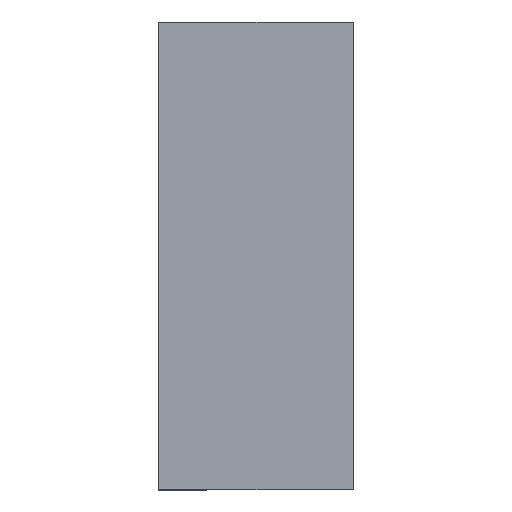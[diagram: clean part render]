
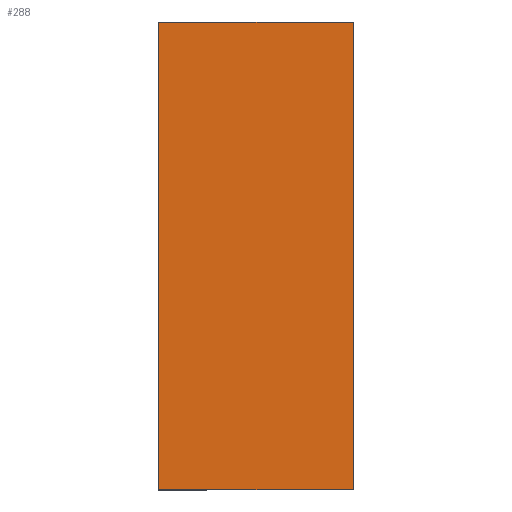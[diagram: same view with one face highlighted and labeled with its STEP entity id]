
A CAD part, top view. The second image highlights one B-rep face of the part: STEP entity #288.
In plain terms, the highlighted planar face has unit normal (0, 0, 1).
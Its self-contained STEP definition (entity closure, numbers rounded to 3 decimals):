
#158=ORIENTED_EDGE('',*,*,#208,.T.);
#159=ORIENTED_EDGE('',*,*,#199,.T.);
#160=ORIENTED_EDGE('',*,*,#203,.T.);
#161=ORIENTED_EDGE('',*,*,#206,.T.);
#167=VECTOR('',#225,1.);
#171=VECTOR('',#231,1.);
#174=VECTOR('',#236,1.);
#176=VECTOR('',#240,1.);
#179=LINE('',#251,#167);
#183=LINE('',#259,#171);
#186=LINE('',#265,#174);
#188=LINE('',#268,#176);
#191=VERTEX_POINT('',#248);
#192=VERTEX_POINT('',#250);
#195=VERTEX_POINT('',#257);
#197=VERTEX_POINT('',#263);
#199=EDGE_CURVE('',#192,#191,#179,.T.);
#203=EDGE_CURVE('',#191,#195,#183,.T.);
#206=EDGE_CURVE('',#195,#197,#186,.T.);
#208=EDGE_CURVE('',#197,#192,#188,.T.);
#214=EDGE_LOOP('',(#158,#159,#160,#161));
#220=FACE_BOUND('',#214,.T.);
#225=DIRECTION('',(0.,-48.,0.));
#231=DIRECTION('',(20.,0.,0.));
#236=DIRECTION('',(0.,48.,0.));
#240=DIRECTION('',(-20.,0.,0.));
#242=DIRECTION('',(0.,0.,1.));
#243=DIRECTION('',(0.,-1.,0.));
#248=CARTESIAN_POINT('',(-10.,-24.,1.5));
#250=CARTESIAN_POINT('',(-10.,24.,1.5));
#251=CARTESIAN_POINT('',(-10.,24.,1.5));
#257=CARTESIAN_POINT('',(10.,-24.,1.5));
#259=CARTESIAN_POINT('',(-10.,-24.,1.5));
#263=CARTESIAN_POINT('',(10.,24.,1.5));
#265=CARTESIAN_POINT('',(10.,-24.,1.5));
#268=CARTESIAN_POINT('',(10.,24.,1.5));
#270=CARTESIAN_POINT('',(10.,24.,1.5));
#276=AXIS2_PLACEMENT_3D('',#270,#242,#243);
#282=PLANE('',#276);
#288=ADVANCED_FACE('',(#220),#282,.T.);
